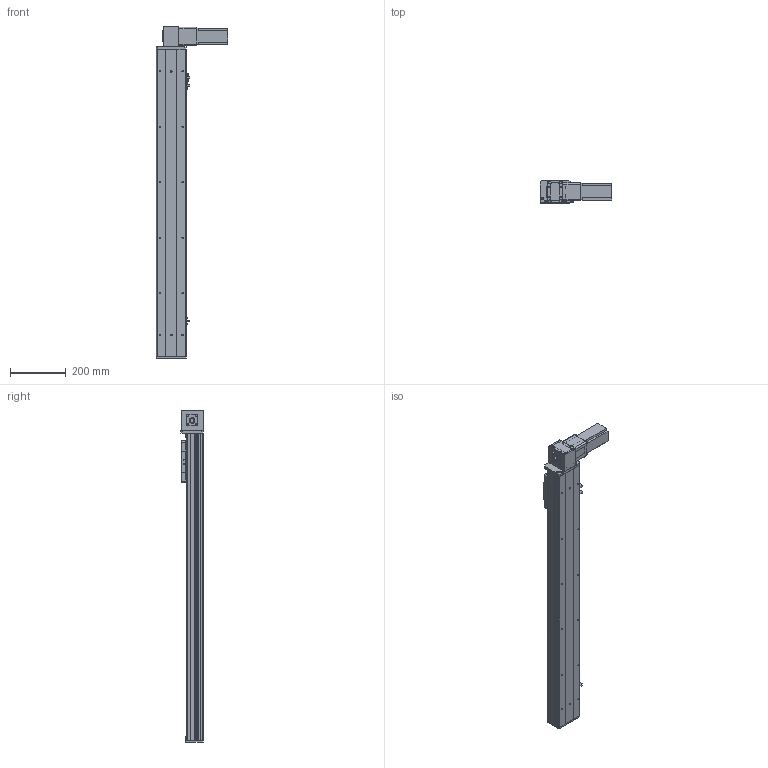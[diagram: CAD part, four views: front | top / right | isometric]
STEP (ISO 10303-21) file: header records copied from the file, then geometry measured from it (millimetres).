
FILE_DESCRIPTION (( 'STEP AP203' ), '1' );
FILE_NAME ('Y10CB-D90-S850-BD-P400W.STEP', '2020-02-17T02:31:07', ( '微软用户' ), ( '微软中国' ), 'SwSTEP 2.0', 'SolidWorks 2017', '' );
FILE_SCHEMA (( 'CONFIG_CONTROL_DESIGN' ));
Length unit declared in the file: millimetre
Products named in the file (16): 10CB-耜裔; Y10B-々湍喘謫眊楊擘啣--; Y135C-陔俋离換覜結え-; san松下电机400不带刹车----; Y100-135俋离換覜ん--; 0B-源倛裔啣; Y10B--々湍喘謫眊--666; 0B-埴倛裔啣; 0B-薊粣ん眊; 10CB-詩湍-; Y10CB-D90-S850-BD-P400W; Y10CB- 掛极耜裔啣-毀---; Y10C---詩湍揤啣; 0CB-雄赽釱---; 10CB9-掛极; 0Cb-俋欶---
Assembly tree (19 placements, depth 2):
  Y10CB-D90-S850-BD-P400W
    0CB-雄赽釱---
    0Cb-俋欶---
    Y10B-々湍喘謫眊楊擘啣--
    san松下电机400不带刹车----
    0B-源倛裔啣
    0B-埴倛裔啣
    10CB-詩湍-
    Y10CB- 掛极耜裔啣-毀---  x2
    Y10C---詩湍揤啣  x2
    10CB9-掛极
    10CB-耜裔
    Y135C-陔俋离換覜結え-
    Y100-135俋离換覜ん--  x3
    Y10B--々湍喘謫眊--666
    0B-薊粣ん眊
Bounding box: 258 x 80.5 x 1196 mm (x, y, z)
Volume: 2874562.4 mm3; surface area: 1235727.8 mm2
Topology: 19 solids, 19 shells, 888 faces, 2342 edges, 1532 vertices
Faces by surface type: plane 434, cylinder 430, cone 24
Entity records: 27069 total; most frequent: CARTESIAN_POINT 4756, DIRECTION 4389, ORIENTED_EDGE 4154, EDGE_CURVE 2077, AXIS2_PLACEMENT_3D 1575, VERTEX_POINT 1358, LINE 1239, VECTOR 1239
